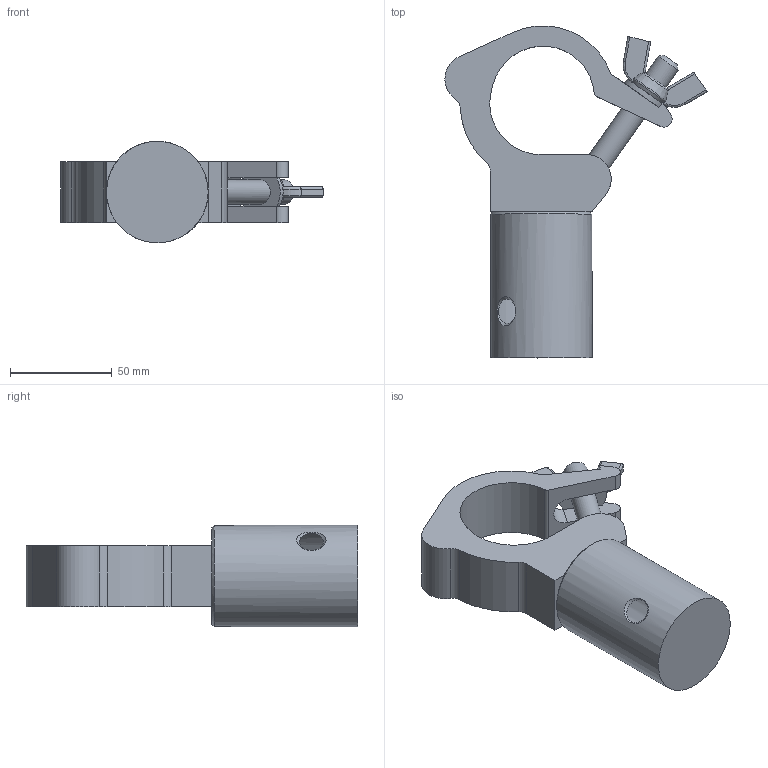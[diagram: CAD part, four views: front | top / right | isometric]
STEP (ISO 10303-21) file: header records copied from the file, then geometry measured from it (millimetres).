
FILE_DESCRIPTION(/* description */ (''),/* implementation_level */ '2;1');
FILE_NAME(/* name */ 'K:\Techniek\CAD Tekeningen\Inventor transport\Cas\Cad Blokken\Catalogus\CS1-DCxx\CS1-DC10S.stp',/* time_stamp */ '2021-08-02T11:02:14+02:00',/* author */ ('Cas'),/* organization */ (''),/* preprocessor_version */ 'ST-DEVELOPER v18',/* originating_system */ 'Autodesk Inventor 2020',/* authorisation */ '');
FILE_SCHEMA (('AUTOMOTIVE_DESIGN { 1 0 10303 214 3 1 1 }'));
Length unit declared in the file: millimetre
Products named in the file (1): CS1-DC10S
Bounding box: 129.05 x 163.33 x 49.92 mm (x, y, z)
Volume: 253090.5 mm3; surface area: 39761.6 mm2
Topology: 1 solids, 1 shells, 81 faces, 225 edges, 145 vertices
Faces by surface type: plane 37, cylinder 28, torus 8, cone 8
Full cylindrical faces by diameter (mm): 12 x2, 50 x1
Entity records: 2997 total; most frequent: CARTESIAN_POINT 732, ORIENTED_EDGE 458, DIRECTION 438, EDGE_CURVE 229, AXIS2_PLACEMENT_3D 165, VERTEX_POINT 145, LINE 108, VECTOR 108
